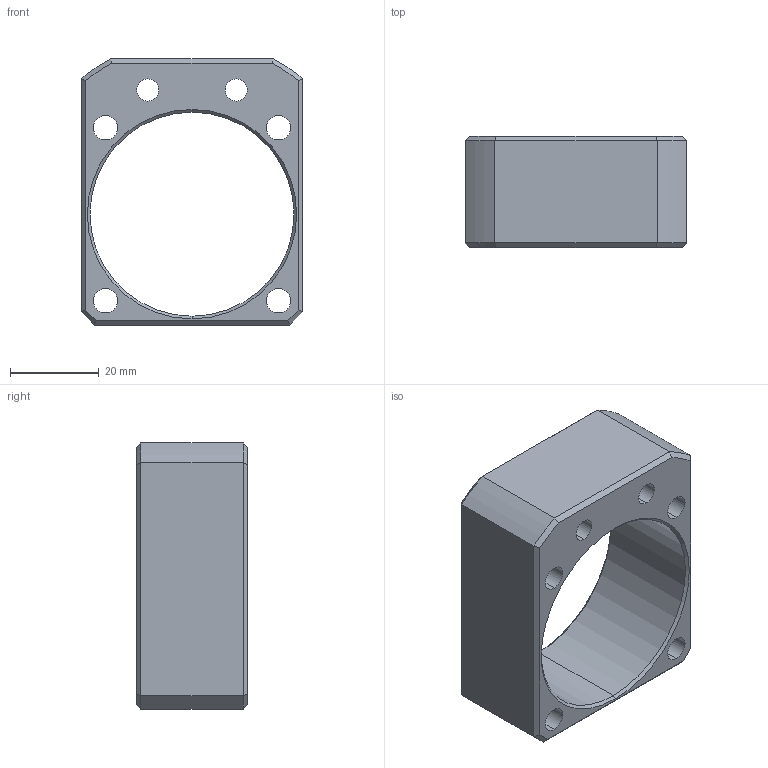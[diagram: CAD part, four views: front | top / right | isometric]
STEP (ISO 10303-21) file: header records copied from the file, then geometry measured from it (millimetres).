
FILE_DESCRIPTION (( 'STEP AP203' ), '1' );
FILE_NAME ('WHZ0320-MD.step', '2010-04-21T15:40:46', ( ' ' ), ( ' ' ), 'SwSTEP 2.0', 'SolidWorks 2009', '' );
FILE_SCHEMA (( 'CONFIG_CONTROL_DESIGN' ));
Length unit declared in the file: millimetre
Products named in the file (1): WHZ0320-MD
Bounding box: 50 x 25 x 60 mm (x, y, z)
Volume: 28758 mm3; surface area: 13402.6 mm2
Topology: 1 solids, 1 shells, 58 faces, 134 edges, 80 vertices
Faces by surface type: plane 22, cylinder 20, cone 16
Entity records: 1743 total; most frequent: DIRECTION 300, CARTESIAN_POINT 297, ORIENTED_EDGE 268, EDGE_CURVE 134, AXIS2_PLACEMENT_3D 115, VERTEX_POINT 80, EDGE_LOOP 74, VECTOR 70
